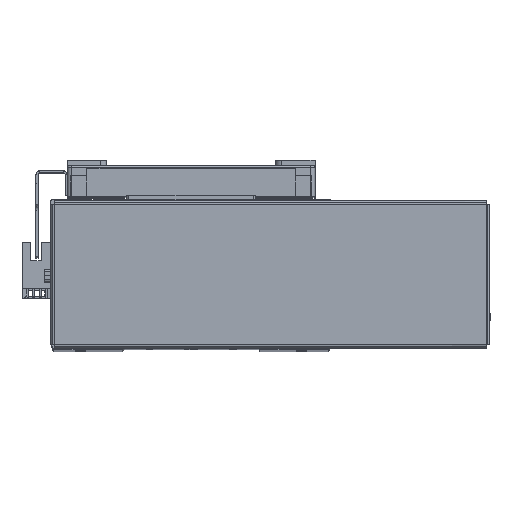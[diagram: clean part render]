
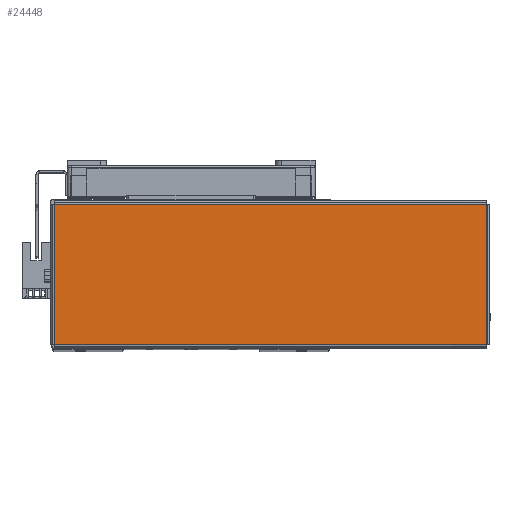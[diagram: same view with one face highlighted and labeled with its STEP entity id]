
A CAD part, top view. The second image highlights one B-rep face of the part: STEP entity #24448.
In plain terms, the highlighted planar face has unit normal (0, 0, 1) as drawn and (0, -1, 0) by its records, which use the part's own axes.
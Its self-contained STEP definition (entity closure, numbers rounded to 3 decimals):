
#1577 = CARTESIAN_POINT ( 'NONE',  ( -103.763, -1., -33.763 ) ) ;
#2025 = CARTESIAN_POINT ( 'NONE',  ( 103.763, -1., 33.763 ) ) ;
#2194 = CARTESIAN_POINT ( 'NONE',  ( 103.763, -1., -33.763 ) ) ;
#4386 = FACE_OUTER_BOUND ( 'NONE', #16679, .T. ) ;
#5246 = CARTESIAN_POINT ( 'NONE',  ( -103.763, -1., 33.763 ) ) ;
#6049 = AXIS2_PLACEMENT_3D ( 'NONE', #40078, #40081, #40057 ) ;
#16679 = EDGE_LOOP ( 'NONE', ( #45492, #45307, #45468, #45433 ) ) ;
#23793 = VERTEX_POINT ( 'NONE', #2025 ) ;
#23804 = VERTEX_POINT ( 'NONE', #2194 ) ;
#23823 = VERTEX_POINT ( 'NONE', #1577 ) ;
#23971 = VERTEX_POINT ( 'NONE', #5246 ) ;
#24448 = ADVANCED_FACE ( 'NONE', ( #4386 ), #40084, .F. ) ;
#35674 = EDGE_CURVE ( 'NONE', #23971, #23823, #41248, .T. ) ;
#35682 = EDGE_CURVE ( 'NONE', #23804, #23793, #41262, .T. ) ;
#35694 = EDGE_CURVE ( 'NONE', #23823, #23804, #42132, .T. ) ;
#35699 = EDGE_CURVE ( 'NONE', #23793, #23971, #41253, .T. ) ;
#40057 = DIRECTION ( 'NONE',  ( 0., 0., 1. ) ) ;
#40078 = CARTESIAN_POINT ( 'NONE',  ( 0., -1., 0. ) ) ;
#40081 = DIRECTION ( 'NONE',  ( 0., 1., 0. ) ) ;
#40084 = PLANE ( 'NONE',  #6049 ) ;
#41229 = VECTOR ( 'NONE', #54378, 1000. ) ;
#41248 = LINE ( 'NONE', #54380, #41229 ) ;
#41253 = LINE ( 'NONE', #54484, #41257 ) ;
#41257 = VECTOR ( 'NONE', #54477, 1000. ) ;
#41258 = VECTOR ( 'NONE', #54418, 1000. ) ;
#41262 = LINE ( 'NONE', #54424, #41258 ) ;
#42132 = LINE ( 'NONE', #54446, #42234 ) ;
#42234 = VECTOR ( 'NONE', #54450, 1000. ) ;
#45307 = ORIENTED_EDGE ( 'NONE', *, *, #35674, .T. ) ;
#45433 = ORIENTED_EDGE ( 'NONE', *, *, #35682, .T. ) ;
#45468 = ORIENTED_EDGE ( 'NONE', *, *, #35694, .T. ) ;
#45492 = ORIENTED_EDGE ( 'NONE', *, *, #35699, .T. ) ;
#54378 = DIRECTION ( 'NONE',  ( 0., 0., -1. ) ) ;
#54380 = CARTESIAN_POINT ( 'NONE',  ( -103.763, -1., 33.793 ) ) ;
#54418 = DIRECTION ( 'NONE',  ( 0., 0., 1. ) ) ;
#54424 = CARTESIAN_POINT ( 'NONE',  ( 103.763, -1., -33.793 ) ) ;
#54446 = CARTESIAN_POINT ( 'NONE',  ( -103.793, -1., -33.763 ) ) ;
#54450 = DIRECTION ( 'NONE',  ( 1., 0., 0. ) ) ;
#54477 = DIRECTION ( 'NONE',  ( -1., 0., 0. ) ) ;
#54484 = CARTESIAN_POINT ( 'NONE',  ( 103.793, -1., 33.763 ) ) ;
